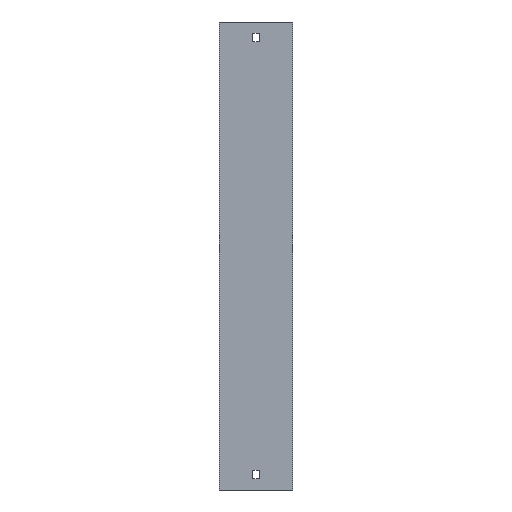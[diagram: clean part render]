
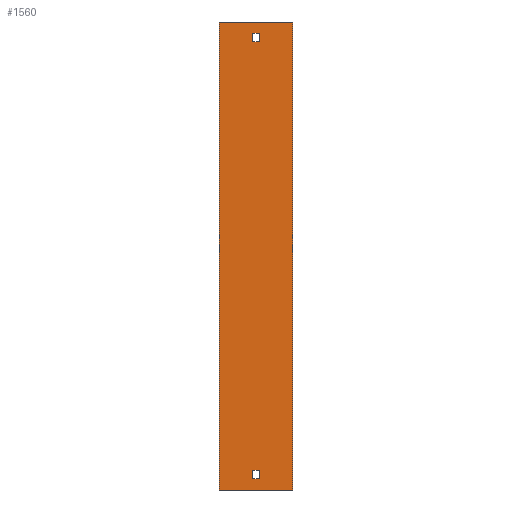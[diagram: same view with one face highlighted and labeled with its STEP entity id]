
A CAD part, front view. The second image highlights one B-rep face of the part: STEP entity #1560.
In plain terms, the highlighted planar face has unit normal (0, -1, 0).
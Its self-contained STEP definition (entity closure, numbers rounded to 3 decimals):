
#24 = ORIENTED_EDGE ( 'NONE', *, *, #415, .T. ) ;
#27 = VERTEX_POINT ( 'NONE', #1575 ) ;
#45 = VERTEX_POINT ( 'NONE', #135 ) ;
#64 = VECTOR ( 'NONE', #1360, 1000. ) ;
#82 = LINE ( 'NONE', #617, #141 ) ;
#95 = CARTESIAN_POINT ( 'NONE',  ( -39.5, 0., -250. ) ) ;
#104 = DIRECTION ( 'NONE',  ( 0., 0., 1. ) ) ;
#115 = VECTOR ( 'NONE', #1183, 1000. ) ;
#135 = CARTESIAN_POINT ( 'NONE',  ( -39.5, 0., 250. ) ) ;
#141 = VECTOR ( 'NONE', #596, 1000. ) ;
#178 = CARTESIAN_POINT ( 'NONE',  ( -3.25, 0., 238. ) ) ;
#220 = LINE ( 'NONE', #1401, #1621 ) ;
#246 = EDGE_LOOP ( 'NONE', ( #257, #1302, #1319, #1164 ) ) ;
#255 = CARTESIAN_POINT ( 'NONE',  ( 3.25, 0., -238. ) ) ;
#257 = ORIENTED_EDGE ( 'NONE', *, *, #961, .T. ) ;
#333 = VERTEX_POINT ( 'NONE', #887 ) ;
#375 = DIRECTION ( 'NONE',  ( 1., 0., 0. ) ) ;
#393 = CARTESIAN_POINT ( 'NONE',  ( -39.5, 0., 250. ) ) ;
#415 = EDGE_CURVE ( 'NONE', #1018, #986, #1294, .T. ) ;
#424 = EDGE_CURVE ( 'NONE', #699, #986, #1142, .T. ) ;
#465 = VECTOR ( 'NONE', #1388, 1000. ) ;
#501 = EDGE_LOOP ( 'NONE', ( #1647, #1492, #1293, #1514 ) ) ;
#516 = DIRECTION ( 'NONE',  ( -1., 0., 0. ) ) ;
#531 = EDGE_LOOP ( 'NONE', ( #24, #784, #1201, #1446 ) ) ;
#560 = LINE ( 'NONE', #1077, #1279 ) ;
#567 = VERTEX_POINT ( 'NONE', #1478 ) ;
#596 = DIRECTION ( 'NONE',  ( 0., 0., -1. ) ) ;
#617 = CARTESIAN_POINT ( 'NONE',  ( -39.5, 0., 250. ) ) ;
#637 = EDGE_CURVE ( 'NONE', #45, #699, #220, .T. ) ;
#643 = CARTESIAN_POINT ( 'NONE',  ( -3.25, 0., 229. ) ) ;
#645 = VECTOR ( 'NONE', #1095, 1000. ) ;
#699 = VERTEX_POINT ( 'NONE', #1118 ) ;
#728 = LINE ( 'NONE', #856, #972 ) ;
#749 = PLANE ( 'NONE',  #1161 ) ;
#784 = ORIENTED_EDGE ( 'NONE', *, *, #424, .F. ) ;
#829 = CARTESIAN_POINT ( 'NONE',  ( -3.25, 0., -238. ) ) ;
#844 = EDGE_CURVE ( 'NONE', #1093, #1505, #560, .T. ) ;
#856 = CARTESIAN_POINT ( 'NONE',  ( 3.25, 0., 238. ) ) ;
#857 = CARTESIAN_POINT ( 'NONE',  ( -3.25, 0., 238. ) ) ;
#887 = CARTESIAN_POINT ( 'NONE',  ( 3.25, 0., 238. ) ) ;
#898 = FACE_BOUND ( 'NONE', #501, .T. ) ;
#934 = VECTOR ( 'NONE', #1438, 1000. ) ;
#941 = LINE ( 'NONE', #829, #64 ) ;
#942 = VERTEX_POINT ( 'NONE', #178 ) ;
#954 = DIRECTION ( 'NONE',  ( -1., 0., 0. ) ) ;
#958 = CARTESIAN_POINT ( 'NONE',  ( -3.25, 0., 238. ) ) ;
#961 = EDGE_CURVE ( 'NONE', #1505, #1516, #941, .T. ) ;
#972 = VECTOR ( 'NONE', #104, 1000. ) ;
#975 = CARTESIAN_POINT ( 'NONE',  ( -3.25, 0., -238. ) ) ;
#983 = VECTOR ( 'NONE', #1561, 1000. ) ;
#986 = VERTEX_POINT ( 'NONE', #1652 ) ;
#992 = EDGE_CURVE ( 'NONE', #333, #942, #1537, .T. ) ;
#1006 = CARTESIAN_POINT ( 'NONE',  ( 39.5, 0., 250. ) ) ;
#1007 = DIRECTION ( 'NONE',  ( 1., 0., 0. ) ) ;
#1009 = CARTESIAN_POINT ( 'NONE',  ( 3.25, 0., 229. ) ) ;
#1018 = VERTEX_POINT ( 'NONE', #95 ) ;
#1027 = VERTEX_POINT ( 'NONE', #1009 ) ;
#1048 = LINE ( 'NONE', #1451, #115 ) ;
#1077 = CARTESIAN_POINT ( 'NONE',  ( -3.25, 0., -238. ) ) ;
#1093 = VERTEX_POINT ( 'NONE', #255 ) ;
#1095 = DIRECTION ( 'NONE',  ( 0., 0., -1. ) ) ;
#1113 = LINE ( 'NONE', #1128, #1275 ) ;
#1118 = CARTESIAN_POINT ( 'NONE',  ( 39.5, 0., 250. ) ) ;
#1128 = CARTESIAN_POINT ( 'NONE',  ( -3.25, 0., -229. ) ) ;
#1142 = LINE ( 'NONE', #1006, #983 ) ;
#1143 = DIRECTION ( 'NONE',  ( 0., 1., 0. ) ) ;
#1161 = AXIS2_PLACEMENT_3D ( 'NONE', #393, #1143, #516 ) ;
#1164 = ORIENTED_EDGE ( 'NONE', *, *, #844, .T. ) ;
#1183 = DIRECTION ( 'NONE',  ( 0., 0., -1. ) ) ;
#1201 = ORIENTED_EDGE ( 'NONE', *, *, #637, .F. ) ;
#1202 = EDGE_CURVE ( 'NONE', #27, #1027, #1545, .T. ) ;
#1258 = EDGE_CURVE ( 'NONE', #567, #1093, #1048, .T. ) ;
#1275 = VECTOR ( 'NONE', #1007, 1000. ) ;
#1279 = VECTOR ( 'NONE', #954, 1000. ) ;
#1293 = ORIENTED_EDGE ( 'NONE', *, *, #992, .F. ) ;
#1294 = LINE ( 'NONE', #1534, #934 ) ;
#1302 = ORIENTED_EDGE ( 'NONE', *, *, #1511, .T. ) ;
#1319 = ORIENTED_EDGE ( 'NONE', *, *, #1258, .T. ) ;
#1344 = LINE ( 'NONE', #958, #645 ) ;
#1355 = EDGE_CURVE ( 'NONE', #942, #27, #1344, .T. ) ;
#1360 = DIRECTION ( 'NONE',  ( 0., 0., 1. ) ) ;
#1388 = DIRECTION ( 'NONE',  ( -1., 0., 0. ) ) ;
#1401 = CARTESIAN_POINT ( 'NONE',  ( -39.5, 0., 250. ) ) ;
#1419 = VECTOR ( 'NONE', #375, 1000. ) ;
#1430 = FACE_OUTER_BOUND ( 'NONE', #531, .T. ) ;
#1438 = DIRECTION ( 'NONE',  ( 1., 0., 0. ) ) ;
#1446 = ORIENTED_EDGE ( 'NONE', *, *, #1489, .T. ) ;
#1451 = CARTESIAN_POINT ( 'NONE',  ( 3.25, 0., -238. ) ) ;
#1478 = CARTESIAN_POINT ( 'NONE',  ( 3.25, 0., -229. ) ) ;
#1489 = EDGE_CURVE ( 'NONE', #45, #1018, #82, .T. ) ;
#1492 = ORIENTED_EDGE ( 'NONE', *, *, #1355, .F. ) ;
#1505 = VERTEX_POINT ( 'NONE', #975 ) ;
#1511 = EDGE_CURVE ( 'NONE', #1516, #567, #1113, .T. ) ;
#1514 = ORIENTED_EDGE ( 'NONE', *, *, #1521, .F. ) ;
#1516 = VERTEX_POINT ( 'NONE', #1643 ) ;
#1521 = EDGE_CURVE ( 'NONE', #1027, #333, #728, .T. ) ;
#1524 = DIRECTION ( 'NONE',  ( 1., 0., 0. ) ) ;
#1534 = CARTESIAN_POINT ( 'NONE',  ( -39.5, 0., -250. ) ) ;
#1537 = LINE ( 'NONE', #857, #465 ) ;
#1545 = LINE ( 'NONE', #643, #1419 ) ;
#1560 = ADVANCED_FACE ( 'NONE', ( #1430, #898, #1678 ), #749, .F. ) ;
#1561 = DIRECTION ( 'NONE',  ( 0., 0., -1. ) ) ;
#1575 = CARTESIAN_POINT ( 'NONE',  ( -3.25, 0., 229. ) ) ;
#1621 = VECTOR ( 'NONE', #1524, 1000. ) ;
#1643 = CARTESIAN_POINT ( 'NONE',  ( -3.25, 0., -229. ) ) ;
#1647 = ORIENTED_EDGE ( 'NONE', *, *, #1202, .F. ) ;
#1652 = CARTESIAN_POINT ( 'NONE',  ( 39.5, 0., -250. ) ) ;
#1678 = FACE_BOUND ( 'NONE', #246, .T. ) ;
